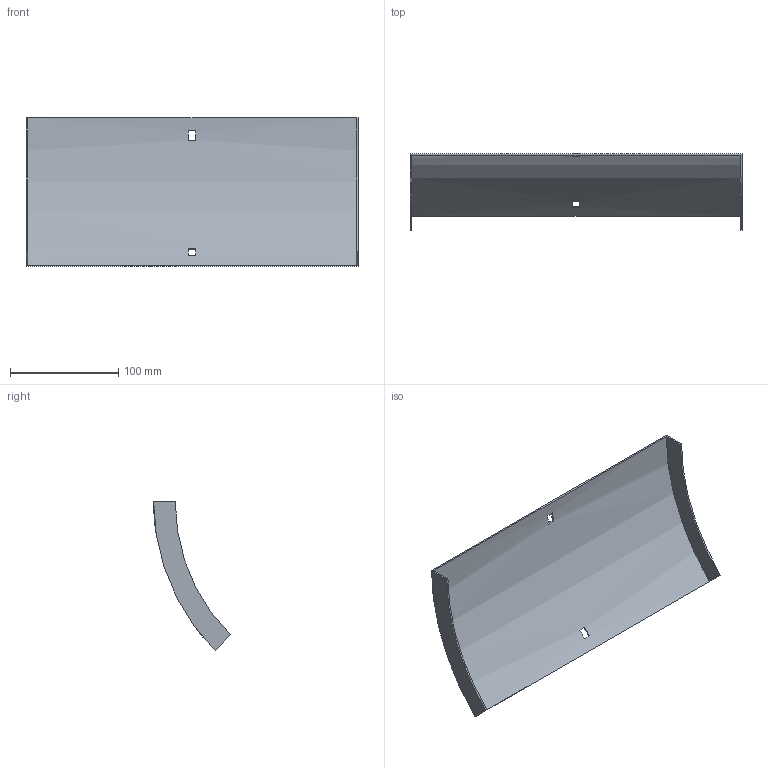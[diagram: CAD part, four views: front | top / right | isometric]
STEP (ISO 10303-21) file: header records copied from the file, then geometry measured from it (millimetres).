
FILE_DESCRIPTION (( 'STEP AP214' ), '1' );
FILE_NAME ('34N1I300.step', '2025-02-21T09:16:30', ( '' ), ( '' ), 'SwSTEP 2.0', 'SolidWorks 2023', '' );
FILE_SCHEMA (( 'AUTOMOTIVE_DESIGN' ));
Length unit declared in the file: millimetre
Products named in the file (1): 34N1I300
Bounding box: 307 x 70.96 x 137.18 mm (x, y, z)
Volume: 77705.5 mm3; surface area: 105144.4 mm2
Topology: 1 solids, 1 shells, 18 faces, 48 edges, 32 vertices
Faces by surface type: plane 14, cylinder 4
Entity records: 599 total; most frequent: DIRECTION 102, CARTESIAN_POINT 99, ORIENTED_EDGE 96, EDGE_CURVE 48, AXIS2_PLACEMENT_3D 35, LINE 32, VERTEX_POINT 32, VECTOR 32
